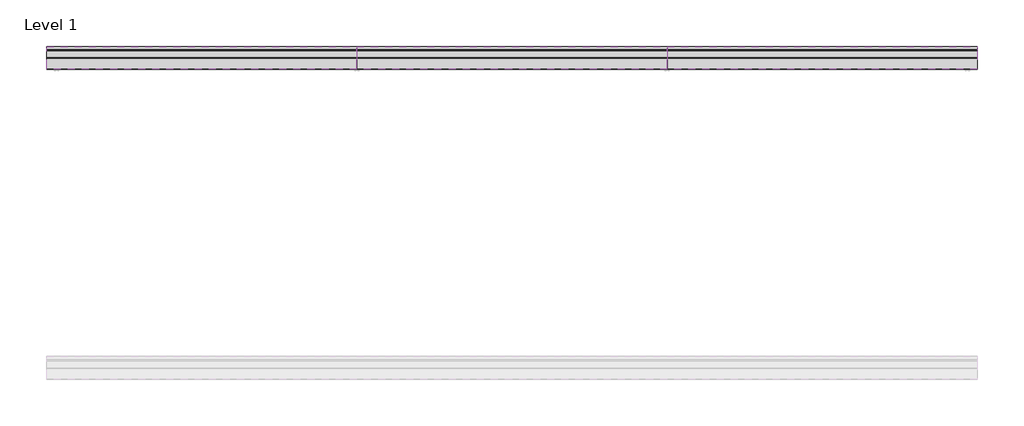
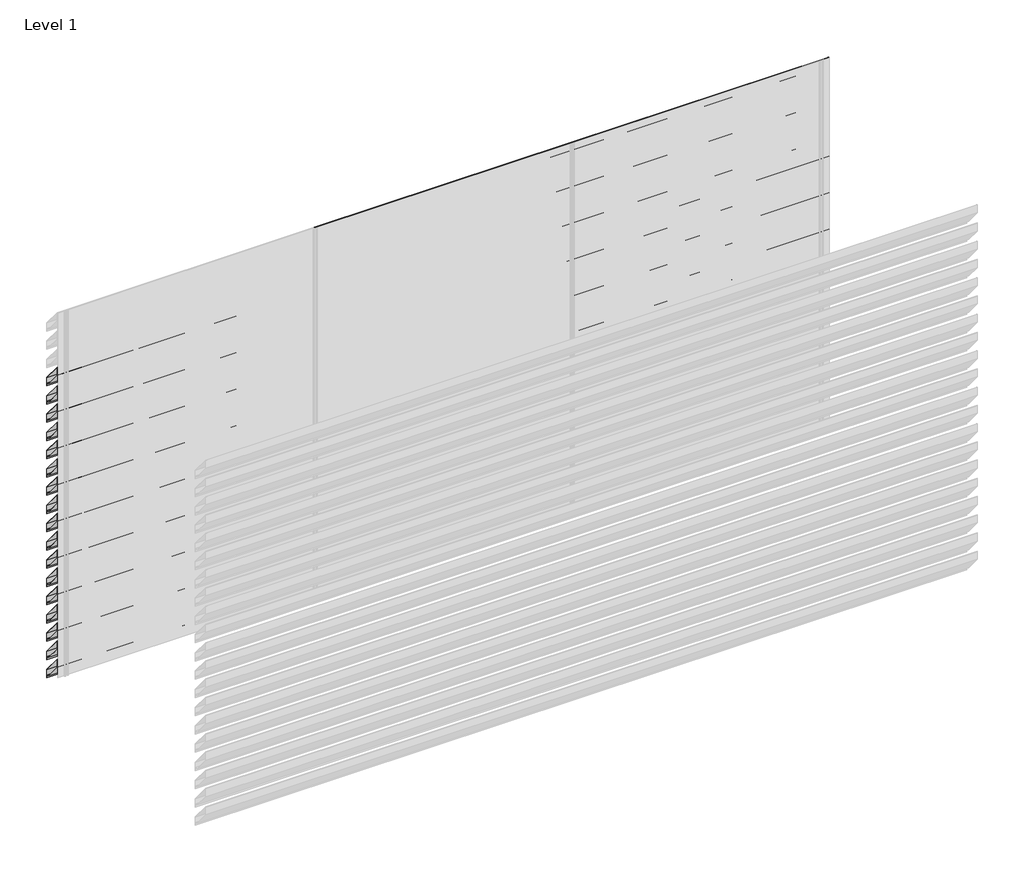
# One storey, part 16 of 16: 57 proxies.
"""IFC4 building model written with IfcOpenShell, lengths in millimetres."""

from ifc_helpers import new_model, si_unit, frame, origin, place, context, project, spatial, polyline, outline, extrude, element, save

model = new_model("IFC4")

# Units and contexts
model_context = context("Model", 3, world=origin())
ifc_project = project(units=[si_unit("LENGTHUNIT", "METRE", prefix="MILLI")], contexts=[model_context])

# Site, building, storey
site = spatial("IfcSite", under=ifc_project)
building = spatial("IfcBuilding", under=site)
storey = spatial("IfcBuildingStorey", under=building, Name="Level 1", Elevation=0.0)

# Proxies
placement = place(None, origin())
element("IfcBuildingElementProxy", 1, Name="Wall Sweeps", at=placement, inside=storey, context=model_context, shape_type="SweptSolid", body=[
    extrude(outline(polyline([(149.0, 2380.0), (149.0, 2311.0), (146.5, 2312.1657691), (146.5, 2325.7059843), (129.7501329, 2345.6676986), (119.0648935, 2345.6676986), (2.0, 2485.1802059), (2.0, 2550.0), (6.3530627, 2550.0), (149.0, 2380.0)]), holes=[polyline([(3.9, 2548.1), (3.9, 2485.8717493), (119.950878, 2347.5676986), (130.6361175, 2347.5676986), (147.1, 2327.9468074), (147.1, 2379.3084566), (5.4670781, 2548.1), (3.9, 2548.1)])]), frame((0.0, 0.0, 0.0), z_axis=(1.0, 0.0, 0.0), x_axis=(0.0, 1.0, 0.0)), (0.0, 0.0, 1.0), 2000.0),
])
element("IfcBuildingElementProxy", 2, Name="Wall Sweeps", at=placement, inside=storey, context=model_context, shape_type="SweptSolid", body=[
    extrude(outline(polyline([(149.0, 2230.0), (149.0, 2161.0), (146.5, 2162.1657691), (146.5, 2175.7059843), (129.7501329, 2195.6676986), (119.0648935, 2195.6676986), (2.0, 2335.1802059), (2.0, 2400.0), (6.3530627, 2400.0), (149.0, 2230.0)]), holes=[polyline([(3.9, 2398.1), (3.9, 2335.8717493), (119.950878, 2197.5676986), (130.6361175, 2197.5676986), (147.1, 2177.9468074), (147.1, 2229.3084566), (5.4670781, 2398.1), (3.9, 2398.1)])]), frame((0.0, 0.0, 0.0), z_axis=(1.0, 0.0, 0.0), x_axis=(0.0, 1.0, 0.0)), (0.0, 0.0, 1.0), 2000.0),
])
element("IfcBuildingElementProxy", 3, Name="Wall Sweeps", at=placement, inside=storey, context=model_context, shape_type="SweptSolid", body=[
    extrude(outline(polyline([(149.0, 2080.0), (149.0, 2011.0), (146.5, 2012.1657691), (146.5, 2025.7059843), (129.7501329, 2045.6676986), (119.0648935, 2045.6676986), (2.0, 2185.1802059), (2.0, 2250.0), (6.3530627, 2250.0), (149.0, 2080.0)]), holes=[polyline([(3.9, 2248.1), (3.9, 2185.8717493), (119.950878, 2047.5676986), (130.6361175, 2047.5676986), (147.1, 2027.9468074), (147.1, 2079.3084566), (5.4670781, 2248.1), (3.9, 2248.1)])]), frame((0.0, 0.0, 0.0), z_axis=(1.0, 0.0, 0.0), x_axis=(0.0, 1.0, 0.0)), (0.0, 0.0, 1.0), 2000.0),
])
element("IfcBuildingElementProxy", 4, Name="Wall Sweeps", at=placement, inside=storey, context=model_context, shape_type="SweptSolid", body=[
    extrude(outline(polyline([(149.0, 1930.0), (149.0, 1861.0), (146.5, 1862.1657691), (146.5, 1875.7059843), (129.7501329, 1895.6676986), (119.0648935, 1895.6676986), (2.0, 2035.1802059), (2.0, 2100.0), (6.3530627, 2100.0), (149.0, 1930.0)]), holes=[polyline([(3.9, 2098.1), (3.9, 2035.8717493), (119.950878, 1897.5676986), (130.6361175, 1897.5676986), (147.1, 1877.9468074), (147.1, 1929.3084566), (5.4670781, 2098.1), (3.9, 2098.1)])]), frame((0.0, 0.0, 0.0), z_axis=(1.0, 0.0, 0.0), x_axis=(0.0, 1.0, 0.0)), (0.0, 0.0, 1.0), 2000.0),
])
element("IfcBuildingElementProxy", 5, Name="Wall Sweeps", at=placement, inside=storey, context=model_context, shape_type="SweptSolid", body=[
    extrude(outline(polyline([(149.0, 1780.0), (149.0, 1711.0), (146.5, 1712.1657691), (146.5, 1725.7059843), (129.7501329, 1745.6676986), (119.0648935, 1745.6676986), (2.0, 1885.1802059), (2.0, 1950.0), (6.3530627, 1950.0), (149.0, 1780.0)]), holes=[polyline([(3.9, 1948.1), (3.9, 1885.8717493), (119.950878, 1747.5676986), (130.6361175, 1747.5676986), (147.1, 1727.9468074), (147.1, 1779.3084566), (5.4670781, 1948.1), (3.9, 1948.1)])]), frame((0.0, 0.0, 0.0), z_axis=(1.0, 0.0, 0.0), x_axis=(0.0, 1.0, 0.0)), (0.0, 0.0, 1.0), 2000.0),
])
element("IfcBuildingElementProxy", 6, Name="Wall Sweeps", at=placement, inside=storey, context=model_context, shape_type="SweptSolid", body=[
    extrude(outline(polyline([(149.0, 1630.0), (149.0, 1561.0), (146.5, 1562.1657691), (146.5, 1575.7059843), (129.7501329, 1595.6676986), (119.0648935, 1595.6676986), (2.0, 1735.1802059), (2.0, 1800.0), (6.3530627, 1800.0), (149.0, 1630.0)]), holes=[polyline([(3.9, 1798.1), (3.9, 1735.8717493), (119.950878, 1597.5676986), (130.6361175, 1597.5676986), (147.1, 1577.9468074), (147.1, 1629.3084566), (5.4670781, 1798.1), (3.9, 1798.1)])]), frame((0.0, 0.0, 0.0), z_axis=(1.0, 0.0, 0.0), x_axis=(0.0, 1.0, 0.0)), (0.0, 0.0, 1.0), 2000.0),
])
element("IfcBuildingElementProxy", 7, Name="Wall Sweeps", at=placement, inside=storey, context=model_context, shape_type="SweptSolid", body=[
    extrude(outline(polyline([(149.0, 1480.0), (149.0, 1411.0), (146.5, 1412.1657691), (146.5, 1425.7059843), (129.7501329, 1445.6676986), (119.0648935, 1445.6676986), (2.0, 1585.1802059), (2.0, 1650.0), (6.3530627, 1650.0), (149.0, 1480.0)]), holes=[polyline([(3.9, 1648.1), (3.9, 1585.8717493), (119.950878, 1447.5676986), (130.6361175, 1447.5676986), (147.1, 1427.9468074), (147.1, 1479.3084566), (5.4670781, 1648.1), (3.9, 1648.1)])]), frame((0.0, 0.0, 0.0), z_axis=(1.0, 0.0, 0.0), x_axis=(0.0, 1.0, 0.0)), (0.0, 0.0, 1.0), 2000.0),
])
element("IfcBuildingElementProxy", 8, Name="Wall Sweeps", at=placement, inside=storey, context=model_context, shape_type="SweptSolid", body=[
    extrude(outline(polyline([(149.0, 1330.0), (149.0, 1261.0), (146.5, 1262.1657691), (146.5, 1275.7059843), (129.7501329, 1295.6676986), (119.0648935, 1295.6676986), (2.0, 1435.1802059), (2.0, 1500.0), (6.3530627, 1500.0), (149.0, 1330.0)]), holes=[polyline([(3.9, 1498.1), (3.9, 1435.8717493), (119.950878, 1297.5676986), (130.6361175, 1297.5676986), (147.1, 1277.9468074), (147.1, 1329.3084566), (5.4670781, 1498.1), (3.9, 1498.1)])]), frame((0.0, 0.0, 0.0), z_axis=(1.0, 0.0, 0.0), x_axis=(0.0, 1.0, 0.0)), (0.0, 0.0, 1.0), 2000.0),
])
element("IfcBuildingElementProxy", 9, Name="Wall Sweeps", at=placement, inside=storey, context=model_context, shape_type="SweptSolid", body=[
    extrude(outline(polyline([(149.0, 1180.0), (149.0, 1111.0), (146.5, 1112.1657691), (146.5, 1125.7059843), (129.7501329, 1145.6676986), (119.0648935, 1145.6676986), (2.0, 1285.1802059), (2.0, 1350.0), (6.3530627, 1350.0), (149.0, 1180.0)]), holes=[polyline([(3.9, 1348.1), (3.9, 1285.8717493), (119.950878, 1147.5676986), (130.6361175, 1147.5676986), (147.1, 1127.9468074), (147.1, 1179.3084566), (5.4670781, 1348.1), (3.9, 1348.1)])]), frame((0.0, 0.0, 0.0), z_axis=(1.0, 0.0, 0.0), x_axis=(0.0, 1.0, 0.0)), (0.0, 0.0, 1.0), 2000.0),
])
element("IfcBuildingElementProxy", 10, Name="Wall Sweeps", at=placement, inside=storey, context=model_context, shape_type="SweptSolid", body=[
    extrude(outline(polyline([(149.0, 1030.0), (149.0, 961.0), (146.5, 962.1657691), (146.5, 975.7059843), (129.7501329, 995.6676986), (119.0648935, 995.6676986), (2.0, 1135.1802059), (2.0, 1200.0), (6.3530627, 1200.0), (149.0, 1030.0)]), holes=[polyline([(3.9, 1198.1), (3.9, 1135.8717493), (119.950878, 997.5676986), (130.6361175, 997.5676986), (147.1, 977.9468074), (147.1, 1029.3084566), (5.4670781, 1198.1), (3.9, 1198.1)])]), frame((0.0, 0.0, 0.0), z_axis=(1.0, 0.0, 0.0), x_axis=(0.0, 1.0, 0.0)), (0.0, 0.0, 1.0), 2000.0),
])
element("IfcBuildingElementProxy", 11, Name="Wall Sweeps", at=placement, inside=storey, context=model_context, shape_type="SweptSolid", body=[
    extrude(outline(polyline([(149.0, 880.0), (149.0, 811.0), (146.5, 812.1657691), (146.5, 825.7059843), (129.7501329, 845.6676986), (119.0648935, 845.6676986), (2.0, 985.1802059), (2.0, 1050.0), (6.3530627, 1050.0), (149.0, 880.0)]), holes=[polyline([(3.9, 1048.1), (3.9, 985.8717493), (119.950878, 847.5676986), (130.6361175, 847.5676986), (147.1, 827.9468074), (147.1, 879.3084566), (5.4670781, 1048.1), (3.9, 1048.1)])]), frame((0.0, 0.0, 0.0), z_axis=(1.0, 0.0, 0.0), x_axis=(0.0, 1.0, 0.0)), (0.0, 0.0, 1.0), 2000.0),
])
element("IfcBuildingElementProxy", 12, Name="Wall Sweeps", at=placement, inside=storey, context=model_context, shape_type="SweptSolid", body=[
    extrude(outline(polyline([(149.0, 730.0), (149.0, 661.0), (146.5, 662.1657691), (146.5, 675.7059843), (129.7501329, 695.6676986), (119.0648935, 695.6676986), (2.0, 835.1802059), (2.0, 900.0), (6.3530627, 900.0), (149.0, 730.0)]), holes=[polyline([(3.9, 898.1), (3.9, 835.8717493), (119.950878, 697.5676986), (130.6361175, 697.5676986), (147.1, 677.9468074), (147.1, 729.3084566), (5.4670781, 898.1), (3.9, 898.1)])]), frame((0.0, 0.0, 0.0), z_axis=(1.0, 0.0, 0.0), x_axis=(0.0, 1.0, 0.0)), (0.0, 0.0, 1.0), 2000.0),
])
element("IfcBuildingElementProxy", 13, Name="Wall Sweeps", at=placement, inside=storey, context=model_context, shape_type="SweptSolid", body=[
    extrude(outline(polyline([(149.0, 580.0), (149.0, 511.0), (146.5, 512.1657691), (146.5, 525.7059843), (129.7501329, 545.6676986), (119.0648935, 545.6676986), (2.0, 685.1802059), (2.0, 750.0), (6.3530627, 750.0), (149.0, 580.0)]), holes=[polyline([(3.9, 748.1), (3.9, 685.8717493), (119.950878, 547.5676986), (130.6361175, 547.5676986), (147.1, 527.9468074), (147.1, 579.3084566), (5.4670781, 748.1), (3.9, 748.1)])]), frame((0.0, 0.0, 0.0), z_axis=(1.0, 0.0, 0.0), x_axis=(0.0, 1.0, 0.0)), (0.0, 0.0, 1.0), 2000.0),
])
element("IfcBuildingElementProxy", 14, Name="Wall Sweeps", at=placement, inside=storey, context=model_context, shape_type="SweptSolid", body=[
    extrude(outline(polyline([(149.0, 430.0), (149.0, 361.0), (146.5, 362.1657691), (146.5, 375.7059843), (129.7501329, 395.6676986), (119.0648935, 395.6676986), (2.0, 535.1802059), (2.0, 600.0), (6.3530627, 600.0), (149.0, 430.0)]), holes=[polyline([(3.9, 598.1), (3.9, 535.8717493), (119.950878, 397.5676986), (130.6361175, 397.5676986), (147.1, 377.9468074), (147.1, 429.3084566), (5.4670781, 598.1), (3.9, 598.1)])]), frame((0.0, 0.0, 0.0), z_axis=(1.0, 0.0, 0.0), x_axis=(0.0, 1.0, 0.0)), (0.0, 0.0, 1.0), 2000.0),
])
element("IfcBuildingElementProxy", 15, Name="Wall Sweeps", at=placement, inside=storey, context=model_context, shape_type="SweptSolid", body=[
    extrude(outline(polyline([(149.0, 280.0), (149.0, 211.0), (146.5, 212.1657691), (146.5, 225.7059843), (129.7501329, 245.6676986), (119.0648935, 245.6676986), (2.0, 385.1802059), (2.0, 450.0), (6.3530627, 450.0), (149.0, 280.0)]), holes=[polyline([(3.9, 448.1), (3.9, 385.8717493), (119.950878, 247.5676986), (130.6361175, 247.5676986), (147.1, 227.9468074), (147.1, 279.3084566), (5.4670781, 448.1), (3.9, 448.1)])]), frame((0.0, 0.0, 0.0), z_axis=(1.0, 0.0, 0.0), x_axis=(0.0, 1.0, 0.0)), (0.0, 0.0, 1.0), 2000.0),
])
element("IfcBuildingElementProxy", 16, Name="Wall Sweeps", at=placement, inside=storey, context=model_context, shape_type="SweptSolid", body=[
    extrude(outline(polyline([(149.0, 130.0), (149.0, 61.0), (146.5, 62.1657691), (146.5, 75.7059843), (129.7501329, 95.6676986), (119.0648935, 95.6676986), (2.0, 235.1802059), (2.0, 300.0), (6.3530627, 300.0), (149.0, 130.0)]), holes=[polyline([(3.9, 298.1), (3.9, 235.8717493), (119.950878, 97.5676986), (130.6361175, 97.5676986), (147.1, 77.9468074), (147.1, 129.3084566), (5.4670781, 298.1), (3.9, 298.1)])]), frame((0.0, 0.0, 0.0), z_axis=(1.0, 0.0, 0.0), x_axis=(0.0, 1.0, 0.0)), (0.0, 0.0, 1.0), 2000.0),
])
element("IfcBuildingElementProxy", 17, Name="Wall Sweeps", at=placement, inside=storey, context=model_context, shape_type="SweptSolid", body=[
    extrude(outline(polyline([(149.0, -20.0), (149.0, -89.0), (146.5, -87.8342309), (146.5, -74.2940157), (129.7501329, -54.3323014), (119.0648935, -54.3323014), (2.0, 85.1802059), (2.0, 150.0), (6.3530627, 150.0), (149.0, -20.0)]), holes=[polyline([(3.9, 148.1), (3.9, 85.8717493), (119.950878, -52.4323014), (130.6361175, -52.4323014), (147.1, -72.0531926), (147.1, -20.6915434), (5.4670781, 148.1), (3.9, 148.1)])]), frame((0.0, 0.0, 0.0), z_axis=(1.0, 0.0, 0.0), x_axis=(0.0, 1.0, 0.0)), (0.0, 0.0, 1.0), 2000.0),
])
element("IfcBuildingElementProxy", 18, Name="Wall Sweeps", at=placement, inside=storey, context=model_context, shape_type="SweptSolid", body=[
    extrude(outline(polyline([(149.0, 2830.0), (149.0, 2761.0), (146.5, 2762.1657691), (146.5, 2775.7059843), (129.7501329, 2795.6676986), (119.0648935, 2795.6676986), (2.0, 2935.1802059), (2.0, 3000.0), (6.3530627, 3000.0), (149.0, 2830.0)]), holes=[polyline([(3.9, 2998.1), (3.9, 2935.8717493), (119.950878, 2797.5676986), (130.6361175, 2797.5676986), (147.1, 2777.9468074), (147.1, 2829.3084566), (5.4670781, 2998.1), (3.9, 2998.1)])]), frame((2000.0, 0.0, 0.0), z_axis=(1.0, 0.0, 0.0), x_axis=(0.0, 1.0, 0.0)), (0.0, 0.0, 1.0), 2000.0),
])
element("IfcBuildingElementProxy", 19, Name="Wall Sweeps", at=placement, inside=storey, context=model_context, shape_type="SweptSolid", body=[
    extrude(outline(polyline([(149.0, 2680.0), (149.0, 2611.0), (146.5, 2612.1657691), (146.5, 2625.7059843), (129.7501329, 2645.6676986), (119.0648935, 2645.6676986), (2.0, 2785.1802059), (2.0, 2850.0), (6.3530627, 2850.0), (149.0, 2680.0)]), holes=[polyline([(3.9, 2848.1), (3.9, 2785.8717493), (119.950878, 2647.5676986), (130.6361175, 2647.5676986), (147.1, 2627.9468074), (147.1, 2679.3084566), (5.4670781, 2848.1), (3.9, 2848.1)])]), frame((2000.0, 0.0, 0.0), z_axis=(1.0, 0.0, 0.0), x_axis=(0.0, 1.0, 0.0)), (0.0, 0.0, 1.0), 2000.0),
])
element("IfcBuildingElementProxy", 20, Name="Wall Sweeps", at=placement, inside=storey, context=model_context, shape_type="SweptSolid", body=[
    extrude(outline(polyline([(149.0, 2530.0), (149.0, 2461.0), (146.5, 2462.1657691), (146.5, 2475.7059843), (129.7501329, 2495.6676986), (119.0648935, 2495.6676986), (2.0, 2635.1802059), (2.0, 2700.0), (6.3530627, 2700.0), (149.0, 2530.0)]), holes=[polyline([(3.9, 2698.1), (3.9, 2635.8717493), (119.950878, 2497.5676986), (130.6361175, 2497.5676986), (147.1, 2477.9468074), (147.1, 2529.3084566), (5.4670781, 2698.1), (3.9, 2698.1)])]), frame((2000.0, 0.0, 0.0), z_axis=(1.0, 0.0, 0.0), x_axis=(0.0, 1.0, 0.0)), (0.0, 0.0, 1.0), 2000.0),
])
element("IfcBuildingElementProxy", 21, Name="Wall Sweeps", at=placement, inside=storey, context=model_context, shape_type="SweptSolid", body=[
    extrude(outline(polyline([(149.0, 2380.0), (149.0, 2311.0), (146.5, 2312.1657691), (146.5, 2325.7059843), (129.7501329, 2345.6676986), (119.0648935, 2345.6676986), (2.0, 2485.1802059), (2.0, 2550.0), (6.3530627, 2550.0), (149.0, 2380.0)]), holes=[polyline([(3.9, 2548.1), (3.9, 2485.8717493), (119.950878, 2347.5676986), (130.6361175, 2347.5676986), (147.1, 2327.9468074), (147.1, 2379.3084566), (5.4670781, 2548.1), (3.9, 2548.1)])]), frame((2000.0, 0.0, 0.0), z_axis=(1.0, 0.0, 0.0), x_axis=(0.0, 1.0, 0.0)), (0.0, 0.0, 1.0), 2000.0),
])
element("IfcBuildingElementProxy", 22, Name="Wall Sweeps", at=placement, inside=storey, context=model_context, shape_type="SweptSolid", body=[
    extrude(outline(polyline([(149.0, 2230.0), (149.0, 2161.0), (146.5, 2162.1657691), (146.5, 2175.7059843), (129.7501329, 2195.6676986), (119.0648935, 2195.6676986), (2.0, 2335.1802059), (2.0, 2400.0), (6.3530627, 2400.0), (149.0, 2230.0)]), holes=[polyline([(3.9, 2398.1), (3.9, 2335.8717493), (119.950878, 2197.5676986), (130.6361175, 2197.5676986), (147.1, 2177.9468074), (147.1, 2229.3084566), (5.4670781, 2398.1), (3.9, 2398.1)])]), frame((2000.0, 0.0, 0.0), z_axis=(1.0, 0.0, 0.0), x_axis=(0.0, 1.0, 0.0)), (0.0, 0.0, 1.0), 2000.0),
])
element("IfcBuildingElementProxy", 23, Name="Wall Sweeps", at=placement, inside=storey, context=model_context, shape_type="SweptSolid", body=[
    extrude(outline(polyline([(149.0, 2080.0), (149.0, 2011.0), (146.5, 2012.1657691), (146.5, 2025.7059843), (129.7501329, 2045.6676986), (119.0648935, 2045.6676986), (2.0, 2185.1802059), (2.0, 2250.0), (6.3530627, 2250.0), (149.0, 2080.0)]), holes=[polyline([(3.9, 2248.1), (3.9, 2185.8717493), (119.950878, 2047.5676986), (130.6361175, 2047.5676986), (147.1, 2027.9468074), (147.1, 2079.3084566), (5.4670781, 2248.1), (3.9, 2248.1)])]), frame((2000.0, 0.0, 0.0), z_axis=(1.0, 0.0, 0.0), x_axis=(0.0, 1.0, 0.0)), (0.0, 0.0, 1.0), 2000.0),
])
element("IfcBuildingElementProxy", 24, Name="Wall Sweeps", at=placement, inside=storey, context=model_context, shape_type="SweptSolid", body=[
    extrude(outline(polyline([(149.0, 1930.0), (149.0, 1861.0), (146.5, 1862.1657691), (146.5, 1875.7059843), (129.7501329, 1895.6676986), (119.0648935, 1895.6676986), (2.0, 2035.1802059), (2.0, 2100.0), (6.3530627, 2100.0), (149.0, 1930.0)]), holes=[polyline([(3.9, 2098.1), (3.9, 2035.8717493), (119.950878, 1897.5676986), (130.6361175, 1897.5676986), (147.1, 1877.9468074), (147.1, 1929.3084566), (5.4670781, 2098.1), (3.9, 2098.1)])]), frame((2000.0, 0.0, 0.0), z_axis=(1.0, 0.0, 0.0), x_axis=(0.0, 1.0, 0.0)), (0.0, 0.0, 1.0), 2000.0),
])
element("IfcBuildingElementProxy", 25, Name="Wall Sweeps", at=placement, inside=storey, context=model_context, shape_type="SweptSolid", body=[
    extrude(outline(polyline([(149.0, 1780.0), (149.0, 1711.0), (146.5, 1712.1657691), (146.5, 1725.7059843), (129.7501329, 1745.6676986), (119.0648935, 1745.6676986), (2.0, 1885.1802059), (2.0, 1950.0), (6.3530627, 1950.0), (149.0, 1780.0)]), holes=[polyline([(3.9, 1948.1), (3.9, 1885.8717493), (119.950878, 1747.5676986), (130.6361175, 1747.5676986), (147.1, 1727.9468074), (147.1, 1779.3084566), (5.4670781, 1948.1), (3.9, 1948.1)])]), frame((2000.0, 0.0, 0.0), z_axis=(1.0, 0.0, 0.0), x_axis=(0.0, 1.0, 0.0)), (0.0, 0.0, 1.0), 2000.0),
])
element("IfcBuildingElementProxy", 26, Name="Wall Sweeps", at=placement, inside=storey, context=model_context, shape_type="SweptSolid", body=[
    extrude(outline(polyline([(149.0, 1630.0), (149.0, 1561.0), (146.5, 1562.1657691), (146.5, 1575.7059843), (129.7501329, 1595.6676986), (119.0648935, 1595.6676986), (2.0, 1735.1802059), (2.0, 1800.0), (6.3530627, 1800.0), (149.0, 1630.0)]), holes=[polyline([(3.9, 1798.1), (3.9, 1735.8717493), (119.950878, 1597.5676986), (130.6361175, 1597.5676986), (147.1, 1577.9468074), (147.1, 1629.3084566), (5.4670781, 1798.1), (3.9, 1798.1)])]), frame((2000.0, 0.0, 0.0), z_axis=(1.0, 0.0, 0.0), x_axis=(0.0, 1.0, 0.0)), (0.0, 0.0, 1.0), 2000.0),
])
element("IfcBuildingElementProxy", 27, Name="Wall Sweeps", at=placement, inside=storey, context=model_context, shape_type="SweptSolid", body=[
    extrude(outline(polyline([(149.0, 1480.0), (149.0, 1411.0), (146.5, 1412.1657691), (146.5, 1425.7059843), (129.7501329, 1445.6676986), (119.0648935, 1445.6676986), (2.0, 1585.1802059), (2.0, 1650.0), (6.3530627, 1650.0), (149.0, 1480.0)]), holes=[polyline([(3.9, 1648.1), (3.9, 1585.8717493), (119.950878, 1447.5676986), (130.6361175, 1447.5676986), (147.1, 1427.9468074), (147.1, 1479.3084566), (5.4670781, 1648.1), (3.9, 1648.1)])]), frame((2000.0, 0.0, 0.0), z_axis=(1.0, 0.0, 0.0), x_axis=(0.0, 1.0, 0.0)), (0.0, 0.0, 1.0), 2000.0),
])
element("IfcBuildingElementProxy", 28, Name="Wall Sweeps", at=placement, inside=storey, context=model_context, shape_type="SweptSolid", body=[
    extrude(outline(polyline([(149.0, 1330.0), (149.0, 1261.0), (146.5, 1262.1657691), (146.5, 1275.7059843), (129.7501329, 1295.6676986), (119.0648935, 1295.6676986), (2.0, 1435.1802059), (2.0, 1500.0), (6.3530627, 1500.0), (149.0, 1330.0)]), holes=[polyline([(3.9, 1498.1), (3.9, 1435.8717493), (119.950878, 1297.5676986), (130.6361175, 1297.5676986), (147.1, 1277.9468074), (147.1, 1329.3084566), (5.4670781, 1498.1), (3.9, 1498.1)])]), frame((2000.0, 0.0, 0.0), z_axis=(1.0, 0.0, 0.0), x_axis=(0.0, 1.0, 0.0)), (0.0, 0.0, 1.0), 2000.0),
])
element("IfcBuildingElementProxy", 29, Name="Wall Sweeps", at=placement, inside=storey, context=model_context, shape_type="SweptSolid", body=[
    extrude(outline(polyline([(149.0, 1180.0), (149.0, 1111.0), (146.5, 1112.1657691), (146.5, 1125.7059843), (129.7501329, 1145.6676986), (119.0648935, 1145.6676986), (2.0, 1285.1802059), (2.0, 1350.0), (6.3530627, 1350.0), (149.0, 1180.0)]), holes=[polyline([(3.9, 1348.1), (3.9, 1285.8717493), (119.950878, 1147.5676986), (130.6361175, 1147.5676986), (147.1, 1127.9468074), (147.1, 1179.3084566), (5.4670781, 1348.1), (3.9, 1348.1)])]), frame((2000.0, 0.0, 0.0), z_axis=(1.0, 0.0, 0.0), x_axis=(0.0, 1.0, 0.0)), (0.0, 0.0, 1.0), 2000.0),
])
element("IfcBuildingElementProxy", 30, Name="Wall Sweeps", at=placement, inside=storey, context=model_context, shape_type="SweptSolid", body=[
    extrude(outline(polyline([(149.0, 1030.0), (149.0, 961.0), (146.5, 962.1657691), (146.5, 975.7059843), (129.7501329, 995.6676986), (119.0648935, 995.6676986), (2.0, 1135.1802059), (2.0, 1200.0), (6.3530627, 1200.0), (149.0, 1030.0)]), holes=[polyline([(3.9, 1198.1), (3.9, 1135.8717493), (119.950878, 997.5676986), (130.6361175, 997.5676986), (147.1, 977.9468074), (147.1, 1029.3084566), (5.4670781, 1198.1), (3.9, 1198.1)])]), frame((2000.0, 0.0, 0.0), z_axis=(1.0, 0.0, 0.0), x_axis=(0.0, 1.0, 0.0)), (0.0, 0.0, 1.0), 2000.0),
])
element("IfcBuildingElementProxy", 31, Name="Wall Sweeps", at=placement, inside=storey, context=model_context, shape_type="SweptSolid", body=[
    extrude(outline(polyline([(149.0, 880.0), (149.0, 811.0), (146.5, 812.1657691), (146.5, 825.7059843), (129.7501329, 845.6676986), (119.0648935, 845.6676986), (2.0, 985.1802059), (2.0, 1050.0), (6.3530627, 1050.0), (149.0, 880.0)]), holes=[polyline([(3.9, 1048.1), (3.9, 985.8717493), (119.950878, 847.5676986), (130.6361175, 847.5676986), (147.1, 827.9468074), (147.1, 879.3084566), (5.4670781, 1048.1), (3.9, 1048.1)])]), frame((2000.0, 0.0, 0.0), z_axis=(1.0, 0.0, 0.0), x_axis=(0.0, 1.0, 0.0)), (0.0, 0.0, 1.0), 2000.0),
])
element("IfcBuildingElementProxy", 32, Name="Wall Sweeps", at=placement, inside=storey, context=model_context, shape_type="SweptSolid", body=[
    extrude(outline(polyline([(149.0, 730.0), (149.0, 661.0), (146.5, 662.1657691), (146.5, 675.7059843), (129.7501329, 695.6676986), (119.0648935, 695.6676986), (2.0, 835.1802059), (2.0, 900.0), (6.3530627, 900.0), (149.0, 730.0)]), holes=[polyline([(3.9, 898.1), (3.9, 835.8717493), (119.950878, 697.5676986), (130.6361175, 697.5676986), (147.1, 677.9468074), (147.1, 729.3084566), (5.4670781, 898.1), (3.9, 898.1)])]), frame((2000.0, 0.0, 0.0), z_axis=(1.0, 0.0, 0.0), x_axis=(0.0, 1.0, 0.0)), (0.0, 0.0, 1.0), 2000.0),
])
element("IfcBuildingElementProxy", 33, Name="Wall Sweeps", at=placement, inside=storey, context=model_context, shape_type="SweptSolid", body=[
    extrude(outline(polyline([(149.0, 580.0), (149.0, 511.0), (146.5, 512.1657691), (146.5, 525.7059843), (129.7501329, 545.6676986), (119.0648935, 545.6676986), (2.0, 685.1802059), (2.0, 750.0), (6.3530627, 750.0), (149.0, 580.0)]), holes=[polyline([(3.9, 748.1), (3.9, 685.8717493), (119.950878, 547.5676986), (130.6361175, 547.5676986), (147.1, 527.9468074), (147.1, 579.3084566), (5.4670781, 748.1), (3.9, 748.1)])]), frame((2000.0, 0.0, 0.0), z_axis=(1.0, 0.0, 0.0), x_axis=(0.0, 1.0, 0.0)), (0.0, 0.0, 1.0), 2000.0),
])
element("IfcBuildingElementProxy", 34, Name="Wall Sweeps", at=placement, inside=storey, context=model_context, shape_type="SweptSolid", body=[
    extrude(outline(polyline([(149.0, 430.0), (149.0, 361.0), (146.5, 362.1657691), (146.5, 375.7059843), (129.7501329, 395.6676986), (119.0648935, 395.6676986), (2.0, 535.1802059), (2.0, 600.0), (6.3530627, 600.0), (149.0, 430.0)]), holes=[polyline([(3.9, 598.1), (3.9, 535.8717493), (119.950878, 397.5676986), (130.6361175, 397.5676986), (147.1, 377.9468074), (147.1, 429.3084566), (5.4670781, 598.1), (3.9, 598.1)])]), frame((2000.0, 0.0, 0.0), z_axis=(1.0, 0.0, 0.0), x_axis=(0.0, 1.0, 0.0)), (0.0, 0.0, 1.0), 2000.0),
])
element("IfcBuildingElementProxy", 35, Name="Wall Sweeps", at=placement, inside=storey, context=model_context, shape_type="SweptSolid", body=[
    extrude(outline(polyline([(149.0, 280.0), (149.0, 211.0), (146.5, 212.1657691), (146.5, 225.7059843), (129.7501329, 245.6676986), (119.0648935, 245.6676986), (2.0, 385.1802059), (2.0, 450.0), (6.3530627, 450.0), (149.0, 280.0)]), holes=[polyline([(3.9, 448.1), (3.9, 385.8717493), (119.950878, 247.5676986), (130.6361175, 247.5676986), (147.1, 227.9468074), (147.1, 279.3084566), (5.4670781, 448.1), (3.9, 448.1)])]), frame((2000.0, 0.0, 0.0), z_axis=(1.0, 0.0, 0.0), x_axis=(0.0, 1.0, 0.0)), (0.0, 0.0, 1.0), 2000.0),
])
element("IfcBuildingElementProxy", 36, Name="Wall Sweeps", at=placement, inside=storey, context=model_context, shape_type="SweptSolid", body=[
    extrude(outline(polyline([(149.0, 130.0), (149.0, 61.0), (146.5, 62.1657691), (146.5, 75.7059843), (129.7501329, 95.6676986), (119.0648935, 95.6676986), (2.0, 235.1802059), (2.0, 300.0), (6.3530627, 300.0), (149.0, 130.0)]), holes=[polyline([(3.9, 298.1), (3.9, 235.8717493), (119.950878, 97.5676986), (130.6361175, 97.5676986), (147.1, 77.9468074), (147.1, 129.3084566), (5.4670781, 298.1), (3.9, 298.1)])]), frame((2000.0, 0.0, 0.0), z_axis=(1.0, 0.0, 0.0), x_axis=(0.0, 1.0, 0.0)), (0.0, 0.0, 1.0), 2000.0),
])
element("IfcBuildingElementProxy", 37, Name="Wall Sweeps", at=placement, inside=storey, context=model_context, shape_type="SweptSolid", body=[
    extrude(outline(polyline([(149.0, -20.0), (149.0, -89.0), (146.5, -87.8342309), (146.5, -74.2940157), (129.7501329, -54.3323014), (119.0648935, -54.3323014), (2.0, 85.1802059), (2.0, 150.0), (6.3530627, 150.0), (149.0, -20.0)]), holes=[polyline([(3.9, 148.1), (3.9, 85.8717493), (119.950878, -52.4323014), (130.6361175, -52.4323014), (147.1, -72.0531926), (147.1, -20.6915434), (5.4670781, 148.1), (3.9, 148.1)])]), frame((2000.0, 0.0, 0.0), z_axis=(1.0, 0.0, 0.0), x_axis=(0.0, 1.0, 0.0)), (0.0, 0.0, 1.0), 2000.0),
])
element("IfcBuildingElementProxy", 38, Name="Wall Sweeps", at=placement, inside=storey, context=model_context, shape_type="SweptSolid", body=[
    extrude(outline(polyline([(149.0, 2830.0), (149.0, 2761.0), (146.5, 2762.1657691), (146.5, 2775.7059843), (129.7501329, 2795.6676986), (119.0648935, 2795.6676986), (2.0, 2935.1802059), (2.0, 3000.0), (6.3530627, 3000.0), (149.0, 2830.0)]), holes=[polyline([(3.9, 2998.1), (3.9, 2935.8717493), (119.950878, 2797.5676986), (130.6361175, 2797.5676986), (147.1, 2777.9468074), (147.1, 2829.3084566), (5.4670781, 2998.1), (3.9, 2998.1)])]), frame((4000.0, 0.0, 0.0), z_axis=(1.0, 0.0, 0.0), x_axis=(0.0, 1.0, 0.0)), (0.0, 0.0, 1.0), 2000.0),
])
element("IfcBuildingElementProxy", 39, Name="Wall Sweeps", at=placement, inside=storey, context=model_context, shape_type="SweptSolid", body=[
    extrude(outline(polyline([(149.0, 2680.0), (149.0, 2611.0), (146.5, 2612.1657691), (146.5, 2625.7059843), (129.7501329, 2645.6676986), (119.0648935, 2645.6676986), (2.0, 2785.1802059), (2.0, 2850.0), (6.3530627, 2850.0), (149.0, 2680.0)]), holes=[polyline([(3.9, 2848.1), (3.9, 2785.8717493), (119.950878, 2647.5676986), (130.6361175, 2647.5676986), (147.1, 2627.9468074), (147.1, 2679.3084566), (5.4670781, 2848.1), (3.9, 2848.1)])]), frame((4000.0, 0.0, 0.0), z_axis=(1.0, 0.0, 0.0), x_axis=(0.0, 1.0, 0.0)), (0.0, 0.0, 1.0), 2000.0),
])
element("IfcBuildingElementProxy", 40, Name="Wall Sweeps", at=placement, inside=storey, context=model_context, shape_type="SweptSolid", body=[
    extrude(outline(polyline([(149.0, 2530.0), (149.0, 2461.0), (146.5, 2462.1657691), (146.5, 2475.7059843), (129.7501329, 2495.6676986), (119.0648935, 2495.6676986), (2.0, 2635.1802059), (2.0, 2700.0), (6.3530627, 2700.0), (149.0, 2530.0)]), holes=[polyline([(3.9, 2698.1), (3.9, 2635.8717493), (119.950878, 2497.5676986), (130.6361175, 2497.5676986), (147.1, 2477.9468074), (147.1, 2529.3084566), (5.4670781, 2698.1), (3.9, 2698.1)])]), frame((4000.0, 0.0, 0.0), z_axis=(1.0, 0.0, 0.0), x_axis=(0.0, 1.0, 0.0)), (0.0, 0.0, 1.0), 2000.0),
])
element("IfcBuildingElementProxy", 41, Name="Wall Sweeps", at=placement, inside=storey, context=model_context, shape_type="SweptSolid", body=[
    extrude(outline(polyline([(149.0, 2380.0), (149.0, 2311.0), (146.5, 2312.1657691), (146.5, 2325.7059843), (129.7501329, 2345.6676986), (119.0648935, 2345.6676986), (2.0, 2485.1802059), (2.0, 2550.0), (6.3530627, 2550.0), (149.0, 2380.0)]), holes=[polyline([(3.9, 2548.1), (3.9, 2485.8717493), (119.950878, 2347.5676986), (130.6361175, 2347.5676986), (147.1, 2327.9468074), (147.1, 2379.3084566), (5.4670781, 2548.1), (3.9, 2548.1)])]), frame((4000.0, 0.0, 0.0), z_axis=(1.0, 0.0, 0.0), x_axis=(0.0, 1.0, 0.0)), (0.0, 0.0, 1.0), 2000.0),
])
element("IfcBuildingElementProxy", 42, Name="Wall Sweeps", at=placement, inside=storey, context=model_context, shape_type="SweptSolid", body=[
    extrude(outline(polyline([(149.0, 2230.0), (149.0, 2161.0), (146.5, 2162.1657691), (146.5, 2175.7059843), (129.7501329, 2195.6676986), (119.0648935, 2195.6676986), (2.0, 2335.1802059), (2.0, 2400.0), (6.3530627, 2400.0), (149.0, 2230.0)]), holes=[polyline([(3.9, 2398.1), (3.9, 2335.8717493), (119.950878, 2197.5676986), (130.6361175, 2197.5676986), (147.1, 2177.9468074), (147.1, 2229.3084566), (5.4670781, 2398.1), (3.9, 2398.1)])]), frame((4000.0, 0.0, 0.0), z_axis=(1.0, 0.0, 0.0), x_axis=(0.0, 1.0, 0.0)), (0.0, 0.0, 1.0), 2000.0),
])
element("IfcBuildingElementProxy", 43, Name="Wall Sweeps", at=placement, inside=storey, context=model_context, shape_type="SweptSolid", body=[
    extrude(outline(polyline([(149.0, 2080.0), (149.0, 2011.0), (146.5, 2012.1657691), (146.5, 2025.7059843), (129.7501329, 2045.6676986), (119.0648935, 2045.6676986), (2.0, 2185.1802059), (2.0, 2250.0), (6.3530627, 2250.0), (149.0, 2080.0)]), holes=[polyline([(3.9, 2248.1), (3.9, 2185.8717493), (119.950878, 2047.5676986), (130.6361175, 2047.5676986), (147.1, 2027.9468074), (147.1, 2079.3084566), (5.4670781, 2248.1), (3.9, 2248.1)])]), frame((4000.0, 0.0, 0.0), z_axis=(1.0, 0.0, 0.0), x_axis=(0.0, 1.0, 0.0)), (0.0, 0.0, 1.0), 2000.0),
])
element("IfcBuildingElementProxy", 44, Name="Wall Sweeps", at=placement, inside=storey, context=model_context, shape_type="SweptSolid", body=[
    extrude(outline(polyline([(149.0, 1930.0), (149.0, 1861.0), (146.5, 1862.1657691), (146.5, 1875.7059843), (129.7501329, 1895.6676986), (119.0648935, 1895.6676986), (2.0, 2035.1802059), (2.0, 2100.0), (6.3530627, 2100.0), (149.0, 1930.0)]), holes=[polyline([(3.9, 2098.1), (3.9, 2035.8717493), (119.950878, 1897.5676986), (130.6361175, 1897.5676986), (147.1, 1877.9468074), (147.1, 1929.3084566), (5.4670781, 2098.1), (3.9, 2098.1)])]), frame((4000.0, 0.0, 0.0), z_axis=(1.0, 0.0, 0.0), x_axis=(0.0, 1.0, 0.0)), (0.0, 0.0, 1.0), 2000.0),
])
element("IfcBuildingElementProxy", 45, Name="Wall Sweeps", at=placement, inside=storey, context=model_context, shape_type="SweptSolid", body=[
    extrude(outline(polyline([(149.0, 1780.0), (149.0, 1711.0), (146.5, 1712.1657691), (146.5, 1725.7059843), (129.7501329, 1745.6676986), (119.0648935, 1745.6676986), (2.0, 1885.1802059), (2.0, 1950.0), (6.3530627, 1950.0), (149.0, 1780.0)]), holes=[polyline([(3.9, 1948.1), (3.9, 1885.8717493), (119.950878, 1747.5676986), (130.6361175, 1747.5676986), (147.1, 1727.9468074), (147.1, 1779.3084566), (5.4670781, 1948.1), (3.9, 1948.1)])]), frame((4000.0, 0.0, 0.0), z_axis=(1.0, 0.0, 0.0), x_axis=(0.0, 1.0, 0.0)), (0.0, 0.0, 1.0), 2000.0),
])
element("IfcBuildingElementProxy", 46, Name="Wall Sweeps", at=placement, inside=storey, context=model_context, shape_type="SweptSolid", body=[
    extrude(outline(polyline([(149.0, 1630.0), (149.0, 1561.0), (146.5, 1562.1657691), (146.5, 1575.7059843), (129.7501329, 1595.6676986), (119.0648935, 1595.6676986), (2.0, 1735.1802059), (2.0, 1800.0), (6.3530627, 1800.0), (149.0, 1630.0)]), holes=[polyline([(3.9, 1798.1), (3.9, 1735.8717493), (119.950878, 1597.5676986), (130.6361175, 1597.5676986), (147.1, 1577.9468074), (147.1, 1629.3084566), (5.4670781, 1798.1), (3.9, 1798.1)])]), frame((4000.0, 0.0, 0.0), z_axis=(1.0, 0.0, 0.0), x_axis=(0.0, 1.0, 0.0)), (0.0, 0.0, 1.0), 2000.0),
])
element("IfcBuildingElementProxy", 47, Name="Wall Sweeps", at=placement, inside=storey, context=model_context, shape_type="SweptSolid", body=[
    extrude(outline(polyline([(149.0, 1480.0), (149.0, 1411.0), (146.5, 1412.1657691), (146.5, 1425.7059843), (129.7501329, 1445.6676986), (119.0648935, 1445.6676986), (2.0, 1585.1802059), (2.0, 1650.0), (6.3530627, 1650.0), (149.0, 1480.0)]), holes=[polyline([(3.9, 1648.1), (3.9, 1585.8717493), (119.950878, 1447.5676986), (130.6361175, 1447.5676986), (147.1, 1427.9468074), (147.1, 1479.3084566), (5.4670781, 1648.1), (3.9, 1648.1)])]), frame((4000.0, 0.0, 0.0), z_axis=(1.0, 0.0, 0.0), x_axis=(0.0, 1.0, 0.0)), (0.0, 0.0, 1.0), 2000.0),
])
element("IfcBuildingElementProxy", 48, Name="Wall Sweeps", at=placement, inside=storey, context=model_context, shape_type="SweptSolid", body=[
    extrude(outline(polyline([(149.0, 1330.0), (149.0, 1261.0), (146.5, 1262.1657691), (146.5, 1275.7059843), (129.7501329, 1295.6676986), (119.0648935, 1295.6676986), (2.0, 1435.1802059), (2.0, 1500.0), (6.3530627, 1500.0), (149.0, 1330.0)]), holes=[polyline([(3.9, 1498.1), (3.9, 1435.8717493), (119.950878, 1297.5676986), (130.6361175, 1297.5676986), (147.1, 1277.9468074), (147.1, 1329.3084566), (5.4670781, 1498.1), (3.9, 1498.1)])]), frame((4000.0, 0.0, 0.0), z_axis=(1.0, 0.0, 0.0), x_axis=(0.0, 1.0, 0.0)), (0.0, 0.0, 1.0), 2000.0),
])
element("IfcBuildingElementProxy", 49, Name="Wall Sweeps", at=placement, inside=storey, context=model_context, shape_type="SweptSolid", body=[
    extrude(outline(polyline([(149.0, 1180.0), (149.0, 1111.0), (146.5, 1112.1657691), (146.5, 1125.7059843), (129.7501329, 1145.6676986), (119.0648935, 1145.6676986), (2.0, 1285.1802059), (2.0, 1350.0), (6.3530627, 1350.0), (149.0, 1180.0)]), holes=[polyline([(3.9, 1348.1), (3.9, 1285.8717493), (119.950878, 1147.5676986), (130.6361175, 1147.5676986), (147.1, 1127.9468074), (147.1, 1179.3084566), (5.4670781, 1348.1), (3.9, 1348.1)])]), frame((4000.0, 0.0, 0.0), z_axis=(1.0, 0.0, 0.0), x_axis=(0.0, 1.0, 0.0)), (0.0, 0.0, 1.0), 2000.0),
])
element("IfcBuildingElementProxy", 50, Name="Wall Sweeps", at=placement, inside=storey, context=model_context, shape_type="SweptSolid", body=[
    extrude(outline(polyline([(149.0, 1030.0), (149.0, 961.0), (146.5, 962.1657691), (146.5, 975.7059843), (129.7501329, 995.6676986), (119.0648935, 995.6676986), (2.0, 1135.1802059), (2.0, 1200.0), (6.3530627, 1200.0), (149.0, 1030.0)]), holes=[polyline([(3.9, 1198.1), (3.9, 1135.8717493), (119.950878, 997.5676986), (130.6361175, 997.5676986), (147.1, 977.9468074), (147.1, 1029.3084566), (5.4670781, 1198.1), (3.9, 1198.1)])]), frame((4000.0, 0.0, 0.0), z_axis=(1.0, 0.0, 0.0), x_axis=(0.0, 1.0, 0.0)), (0.0, 0.0, 1.0), 2000.0),
])
element("IfcBuildingElementProxy", 51, Name="Wall Sweeps", at=placement, inside=storey, context=model_context, shape_type="SweptSolid", body=[
    extrude(outline(polyline([(149.0, 880.0), (149.0, 811.0), (146.5, 812.1657691), (146.5, 825.7059843), (129.7501329, 845.6676986), (119.0648935, 845.6676986), (2.0, 985.1802059), (2.0, 1050.0), (6.3530627, 1050.0), (149.0, 880.0)]), holes=[polyline([(3.9, 1048.1), (3.9, 985.8717493), (119.950878, 847.5676986), (130.6361175, 847.5676986), (147.1, 827.9468074), (147.1, 879.3084566), (5.4670781, 1048.1), (3.9, 1048.1)])]), frame((4000.0, 0.0, 0.0), z_axis=(1.0, 0.0, 0.0), x_axis=(0.0, 1.0, 0.0)), (0.0, 0.0, 1.0), 2000.0),
])
element("IfcBuildingElementProxy", 52, Name="Wall Sweeps", at=placement, inside=storey, context=model_context, shape_type="SweptSolid", body=[
    extrude(outline(polyline([(149.0, 730.0), (149.0, 661.0), (146.5, 662.1657691), (146.5, 675.7059843), (129.7501329, 695.6676986), (119.0648935, 695.6676986), (2.0, 835.1802059), (2.0, 900.0), (6.3530627, 900.0), (149.0, 730.0)]), holes=[polyline([(3.9, 898.1), (3.9, 835.8717493), (119.950878, 697.5676986), (130.6361175, 697.5676986), (147.1, 677.9468074), (147.1, 729.3084566), (5.4670781, 898.1), (3.9, 898.1)])]), frame((4000.0, 0.0, 0.0), z_axis=(1.0, 0.0, 0.0), x_axis=(0.0, 1.0, 0.0)), (0.0, 0.0, 1.0), 2000.0),
])
element("IfcBuildingElementProxy", 53, Name="Wall Sweeps", at=placement, inside=storey, context=model_context, shape_type="SweptSolid", body=[
    extrude(outline(polyline([(149.0, 580.0), (149.0, 511.0), (146.5, 512.1657691), (146.5, 525.7059843), (129.7501329, 545.6676986), (119.0648935, 545.6676986), (2.0, 685.1802059), (2.0, 750.0), (6.3530627, 750.0), (149.0, 580.0)]), holes=[polyline([(3.9, 748.1), (3.9, 685.8717493), (119.950878, 547.5676986), (130.6361175, 547.5676986), (147.1, 527.9468074), (147.1, 579.3084566), (5.4670781, 748.1), (3.9, 748.1)])]), frame((4000.0, 0.0, 0.0), z_axis=(1.0, 0.0, 0.0), x_axis=(0.0, 1.0, 0.0)), (0.0, 0.0, 1.0), 2000.0),
])
element("IfcBuildingElementProxy", 54, Name="Wall Sweeps", at=placement, inside=storey, context=model_context, shape_type="SweptSolid", body=[
    extrude(outline(polyline([(149.0, 430.0), (149.0, 361.0), (146.5, 362.1657691), (146.5, 375.7059843), (129.7501329, 395.6676986), (119.0648935, 395.6676986), (2.0, 535.1802059), (2.0, 600.0), (6.3530627, 600.0), (149.0, 430.0)]), holes=[polyline([(3.9, 598.1), (3.9, 535.8717493), (119.950878, 397.5676986), (130.6361175, 397.5676986), (147.1, 377.9468074), (147.1, 429.3084566), (5.4670781, 598.1), (3.9, 598.1)])]), frame((4000.0, 0.0, 0.0), z_axis=(1.0, 0.0, 0.0), x_axis=(0.0, 1.0, 0.0)), (0.0, 0.0, 1.0), 2000.0),
])
element("IfcBuildingElementProxy", 55, Name="Wall Sweeps", at=placement, inside=storey, context=model_context, shape_type="SweptSolid", body=[
    extrude(outline(polyline([(149.0, 280.0), (149.0, 211.0), (146.5, 212.1657691), (146.5, 225.7059843), (129.7501329, 245.6676986), (119.0648935, 245.6676986), (2.0, 385.1802059), (2.0, 450.0), (6.3530627, 450.0), (149.0, 280.0)]), holes=[polyline([(3.9, 448.1), (3.9, 385.8717493), (119.950878, 247.5676986), (130.6361175, 247.5676986), (147.1, 227.9468074), (147.1, 279.3084566), (5.4670781, 448.1), (3.9, 448.1)])]), frame((4000.0, 0.0, 0.0), z_axis=(1.0, 0.0, 0.0), x_axis=(0.0, 1.0, 0.0)), (0.0, 0.0, 1.0), 2000.0),
])
element("IfcBuildingElementProxy", 56, Name="Wall Sweeps", at=placement, inside=storey, context=model_context, shape_type="SweptSolid", body=[
    extrude(outline(polyline([(149.0, 130.0), (149.0, 61.0), (146.5, 62.1657691), (146.5, 75.7059843), (129.7501329, 95.6676986), (119.0648935, 95.6676986), (2.0, 235.1802059), (2.0, 300.0), (6.3530627, 300.0), (149.0, 130.0)]), holes=[polyline([(3.9, 298.1), (3.9, 235.8717493), (119.950878, 97.5676986), (130.6361175, 97.5676986), (147.1, 77.9468074), (147.1, 129.3084566), (5.4670781, 298.1), (3.9, 298.1)])]), frame((4000.0, 0.0, 0.0), z_axis=(1.0, 0.0, 0.0), x_axis=(0.0, 1.0, 0.0)), (0.0, 0.0, 1.0), 2000.0),
])
element("IfcBuildingElementProxy", 57, Name="Wall Sweeps", at=placement, inside=storey, context=model_context, shape_type="SweptSolid", body=[
    extrude(outline(polyline([(149.0, -20.0), (149.0, -89.0), (146.5, -87.8342309), (146.5, -74.2940157), (129.7501329, -54.3323014), (119.0648935, -54.3323014), (2.0, 85.1802059), (2.0, 150.0), (6.3530627, 150.0), (149.0, -20.0)]), holes=[polyline([(3.9, 148.1), (3.9, 85.8717493), (119.950878, -52.4323014), (130.6361175, -52.4323014), (147.1, -72.0531926), (147.1, -20.6915434), (5.4670781, 148.1), (3.9, 148.1)])]), frame((4000.0, 0.0, 0.0), z_axis=(1.0, 0.0, 0.0), x_axis=(0.0, 1.0, 0.0)), (0.0, 0.0, 1.0), 2000.0),
])

save(model, "model.ifc")
